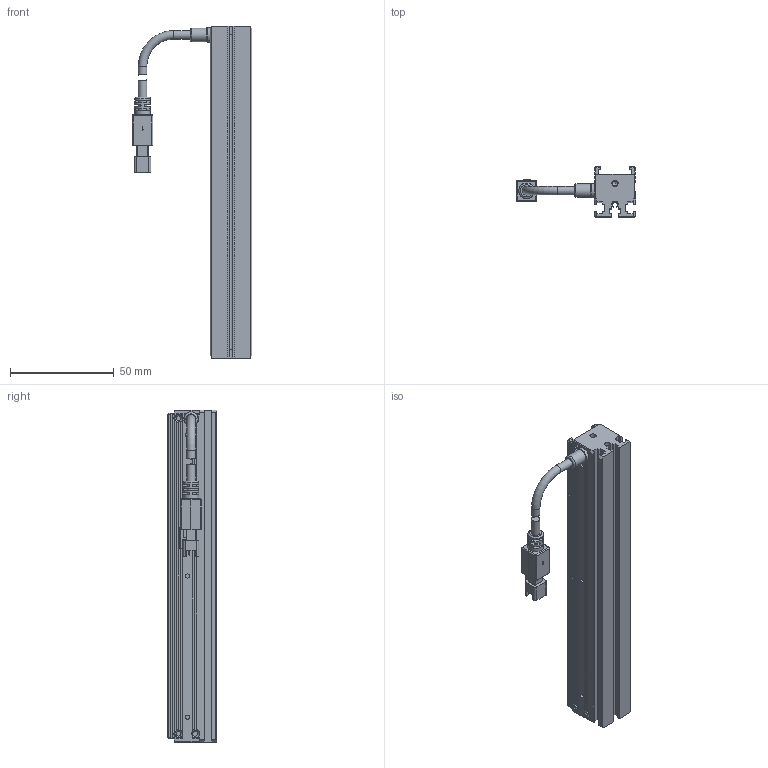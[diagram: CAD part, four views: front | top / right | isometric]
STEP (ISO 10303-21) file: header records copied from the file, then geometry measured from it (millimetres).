
FILE_DESCRIPTION (( 'STEP AP203' ), '1' );
FILE_NAME ('OPT-ULI16020-UV-V1.0 尨砩芞.STEP', '2024-12-10T09:02:10', ( '' ), ( '' ), 'SwSTEP 2.0', 'SolidWorks 2016', '' );
FILE_SCHEMA (( 'CONFIG_CONTROL_DESIGN' ));
Length unit declared in the file: millimetre
Products named in the file (1): OPT-ULI16020-UV-V1.0 尨砩芞
Bounding box: 57.6 x 24 x 160 mm (x, y, z)
Volume: 58412.6 mm3; surface area: 29490.4 mm2
Topology: 6 solids, 14 shells, 583 faces, 1516 edges, 974 vertices
Faces by surface type: plane 390, cylinder 136, cone 28, bspline 21, torus 8
Full cylindrical faces by diameter (mm): 1.1 x2, 1.4 x2, 1.6 x7, 2 x13, 2.4 x7, 2.5 x2, 3 x2, 3.5 x1, 4.1 x4, 6.5 x1, 7 x1, 7.5 x1
Entity records: 17882 total; most frequent: CARTESIAN_POINT 4162, ORIENTED_EDGE 2814, DIRECTION 2720, EDGE_CURVE 1407, VECTOR 960, LINE 960, VERTEX_POINT 940, AXIS2_PLACEMENT_3D 880
